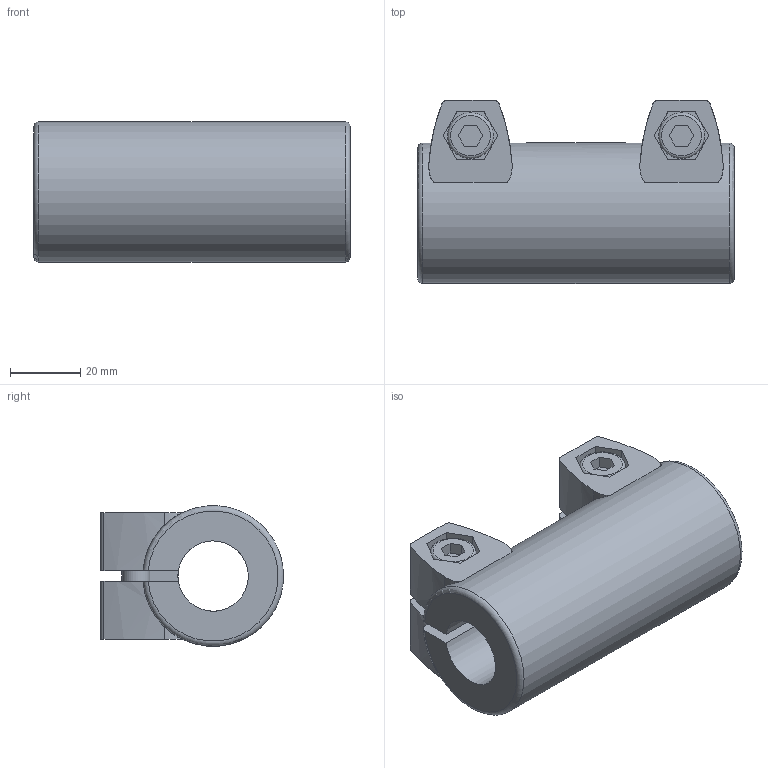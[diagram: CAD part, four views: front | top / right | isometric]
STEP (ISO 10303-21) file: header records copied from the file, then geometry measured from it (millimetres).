
FILE_DESCRIPTION( ( 'STEP AP203' ), '1' );
FILE_NAME( 'C:/Temp/Ganter_Step_05_03_2020/data/3_7/gn242/gn242_2/Tube connector GN 242-B20-B30-2-BL.stp', '2020-03-12T14:40:05', ( 'License CC BY-ND 4.0' ), ( 'CADENAS' ), ' ', 'PARTsolutions', ' ' );
FILE_SCHEMA( ( 'CONFIG_CONTROL_DESIGN' ) );
Length unit declared in the file: millimetre
Products named in the file (1): _Tube connector GN 242-B20-B30-2-BL
Bounding box: 90 x 52 x 39.96 mm (x, y, z)
Volume: 85069.1 mm3; surface area: 27738.5 mm2
Topology: 1 solids, 1 shells, 166 faces, 451 edges, 298 vertices
Faces by surface type: plane 85, cylinder 59, cone 14, torus 8
Full cylindrical faces by diameter (mm): 8 x2, 12 x2, 13 x2, 20 x1, 30 x1, 40 x1
Entity records: 5494 total; most frequent: CARTESIAN_POINT 1437, ORIENTED_EDGE 848, DIRECTION 790, EDGE_CURVE 424, VERTEX_POINT 290, AXIS2_PLACEMENT_3D 281, LINE 228, VECTOR 228
